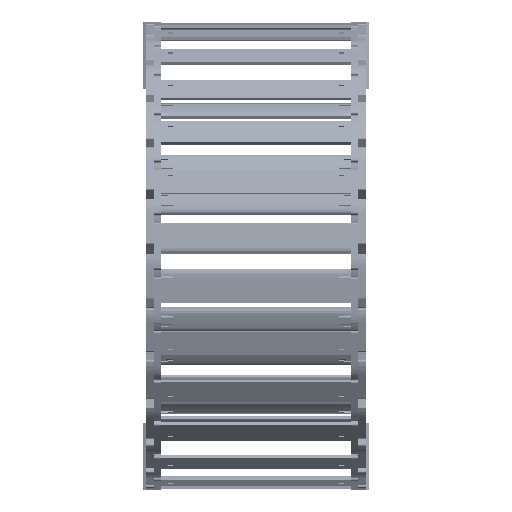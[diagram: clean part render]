
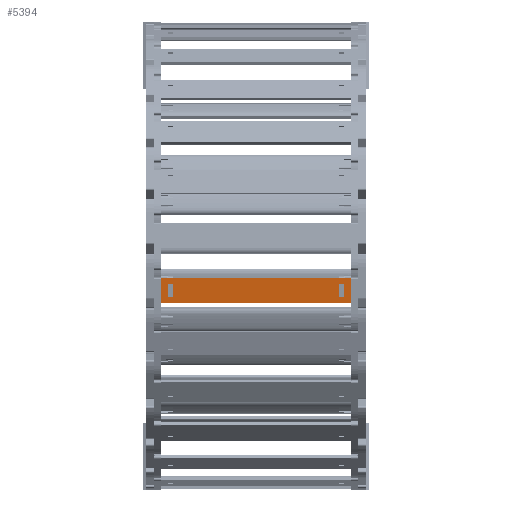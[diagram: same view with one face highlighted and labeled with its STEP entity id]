
A CAD part, left-side view. The second image highlights one B-rep face of the part: STEP entity #5394.
In plain terms, the highlighted planar face has unit normal (-0.989, 0, -0.146) as drawn and (0, 1, 0) by its records, which use the part's own axes.
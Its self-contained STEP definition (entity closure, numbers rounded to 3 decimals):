
#4814=DIRECTION('',(0.,0.,1.));
#4815=VECTOR('',#4814,15.8);
#4816=CARTESIAN_POINT('',(105.74,1.5,-7.9));
#4817=LINE('',#4816,#4815);
#4818=DIRECTION('',(-1.,0.,0.));
#4819=VECTOR('',#4818,120.5);
#4820=CARTESIAN_POINT('',(105.74,1.5,7.9));
#4821=LINE('',#4820,#4819);
#4822=DIRECTION('',(0.,0.,-1.));
#4823=VECTOR('',#4822,15.8);
#4824=CARTESIAN_POINT('',(-14.76,1.5,7.9));
#4825=LINE('',#4824,#4823);
#4826=DIRECTION('',(1.,0.,0.));
#4827=VECTOR('',#4826,3.648);
#4828=CARTESIAN_POINT('',(98.122,1.5,4.075));
#4829=LINE('',#4828,#4827);
#4830=DIRECTION('',(0.,0.,-1.));
#4831=VECTOR('',#4830,8.15);
#4832=CARTESIAN_POINT('',(101.77,1.5,4.075));
#4833=LINE('',#4832,#4831);
#4834=DIRECTION('',(-1.,0.,0.));
#4835=VECTOR('',#4834,3.648);
#4836=CARTESIAN_POINT('',(101.77,1.5,-4.075));
#4837=LINE('',#4836,#4835);
#4838=DIRECTION('',(0.,0.,-1.));
#4839=VECTOR('',#4838,8.15);
#4840=CARTESIAN_POINT('',(-7.142,1.5,4.075));
#4841=LINE('',#4840,#4839);
#4842=DIRECTION('',(-1.,0.,0.));
#4843=VECTOR('',#4842,3.648);
#4844=CARTESIAN_POINT('',(-7.142,1.5,-4.075));
#4845=LINE('',#4844,#4843);
#4846=DIRECTION('',(0.,0.,1.));
#4847=VECTOR('',#4846,8.15);
#4848=CARTESIAN_POINT('',(-10.79,1.5,-4.075));
#4849=LINE('',#4848,#4847);
#4850=DIRECTION('',(1.,0.,0.));
#4851=VECTOR('',#4850,3.648);
#4852=CARTESIAN_POINT('',(-10.79,1.5,4.075));
#4853=LINE('',#4852,#4851);
#4858=DIRECTION('',(-1.,0.,0.));
#4859=VECTOR('',#4858,120.5);
#4860=CARTESIAN_POINT('',(105.74,1.5,-7.9));
#4861=LINE('',#4860,#4859);
#4979=DIRECTION('',(0.,0.,-1.));
#4980=VECTOR('',#4979,8.15);
#4981=CARTESIAN_POINT('',(98.122,1.5,4.075));
#4982=LINE('',#4981,#4980);
#5164=CARTESIAN_POINT('',(101.77,1.5,4.075));
#5165=VERTEX_POINT('',#5164);
#5166=CARTESIAN_POINT('',(98.122,1.5,4.075));
#5167=VERTEX_POINT('',#5166);
#5208=CARTESIAN_POINT('',(98.122,1.5,-4.075));
#5209=VERTEX_POINT('',#5208);
#5210=CARTESIAN_POINT('',(101.77,1.5,-4.075));
#5211=VERTEX_POINT('',#5210);
#5212=CARTESIAN_POINT('',(105.74,1.5,7.9));
#5214=VERTEX_POINT('',#5212);
#5216=CARTESIAN_POINT('',(105.74,1.5,-7.9));
#5217=VERTEX_POINT('',#5216);
#5240=CARTESIAN_POINT('',(-7.142,1.5,4.075));
#5241=CARTESIAN_POINT('',(-7.142,1.5,-4.075));
#5242=VERTEX_POINT('',#5240);
#5243=VERTEX_POINT('',#5241);
#5244=CARTESIAN_POINT('',(-10.79,1.5,-4.075));
#5245=VERTEX_POINT('',#5244);
#5246=CARTESIAN_POINT('',(-10.79,1.5,4.075));
#5247=VERTEX_POINT('',#5246);
#5248=CARTESIAN_POINT('',(-14.76,1.5,7.9));
#5249=VERTEX_POINT('',#5248);
#5252=CARTESIAN_POINT('',(-14.76,1.5,-7.9));
#5253=VERTEX_POINT('',#5252);
#5363=CARTESIAN_POINT('',(137.48,1.5,10.061));
#5364=DIRECTION('',(0.,-1.,0.));
#5365=DIRECTION('',(0.,0.,-1.));
#5366=AXIS2_PLACEMENT_3D('',#5363,#5364,#5365);
#5367=PLANE('',#5366);
#5368=ORIENTED_EDGE('',*,*,#5302,.T.);
#5369=ORIENTED_EDGE('',*,*,#5328,.T.);
#5370=ORIENTED_EDGE('',*,*,#5341,.T.);
#5372=ORIENTED_EDGE('',*,*,#5371,.F.);
#5373=EDGE_LOOP('',(#5368,#5369,#5370,#5372));
#5374=FACE_OUTER_BOUND('',#5373,.F.);
#5376=ORIENTED_EDGE('',*,*,#5375,.F.);
#5377=ORIENTED_EDGE('',*,*,#5265,.T.);
#5379=ORIENTED_EDGE('',*,*,#5378,.T.);
#5381=ORIENTED_EDGE('',*,*,#5380,.T.);
#5382=EDGE_LOOP('',(#5376,#5377,#5379,#5381));
#5383=FACE_BOUND('',#5382,.F.);
#5385=ORIENTED_EDGE('',*,*,#5384,.T.);
#5387=ORIENTED_EDGE('',*,*,#5386,.T.);
#5389=ORIENTED_EDGE('',*,*,#5388,.T.);
#5391=ORIENTED_EDGE('',*,*,#5390,.T.);
#5392=EDGE_LOOP('',(#5385,#5387,#5389,#5391));
#5393=FACE_BOUND('',#5392,.F.);
#5394=ADVANCED_FACE('',(#5374,#5383,#5393),#5367,.F.);
#5265=EDGE_CURVE('',#5167,#5165,#4829,.T.);
#5302=EDGE_CURVE('',#5217,#5214,#4817,.T.);
#5328=EDGE_CURVE('',#5214,#5249,#4821,.T.);
#5341=EDGE_CURVE('',#5249,#5253,#4825,.T.);
#5371=EDGE_CURVE('',#5217,#5253,#4861,.T.);
#5375=EDGE_CURVE('',#5167,#5209,#4982,.T.);
#5378=EDGE_CURVE('',#5165,#5211,#4833,.T.);
#5380=EDGE_CURVE('',#5211,#5209,#4837,.T.);
#5384=EDGE_CURVE('',#5242,#5243,#4841,.T.);
#5386=EDGE_CURVE('',#5243,#5245,#4845,.T.);
#5388=EDGE_CURVE('',#5245,#5247,#4849,.T.);
#5390=EDGE_CURVE('',#5247,#5242,#4853,.T.);
